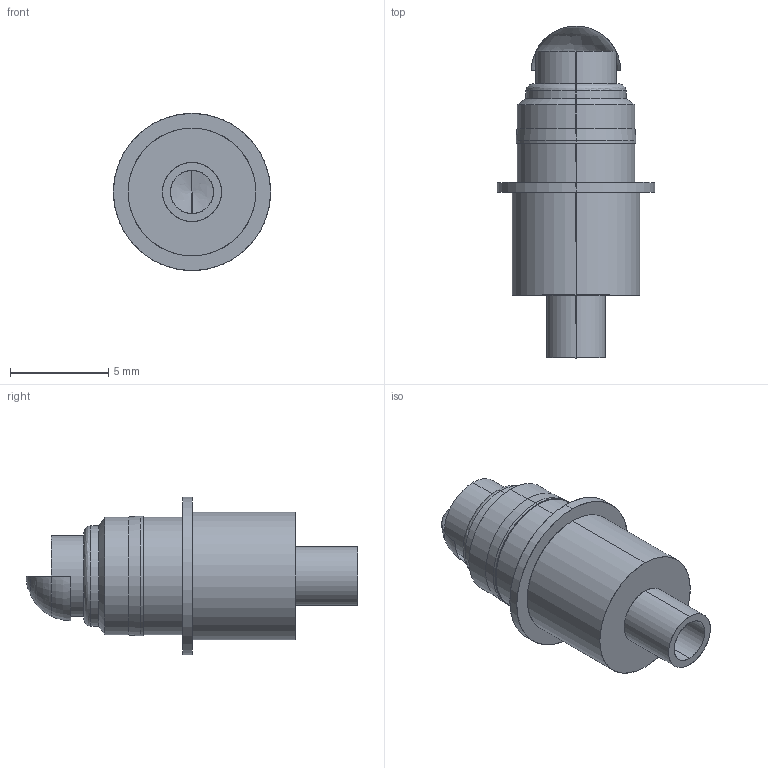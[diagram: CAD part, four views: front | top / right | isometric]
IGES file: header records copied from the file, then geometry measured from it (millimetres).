
Start section: SolidWorks IGES file using analytic representation for surfaces
Global section: file name: \\CODA-VM-SBS\RedirectedFolders\GeorgeD\My Documents\CODA CAD FILES\INTERFACING COMPONENTS\BACK FITMENT\PD16 SERIES\SD-PD16JXT-WET.IGS; native system: SolidWorks 2024; preprocessor: SolidWorks 2024; author: GeorgeD; date: 250910.140643; units: millimetre
Bounding box: 8 x 16.9 x 8 mm (x, y, z)
Surface area: 394.9 mm2 (no closed solid volume)
Topology: 0 solids, 0 shells, 41 faces, 468 edges, 465 vertices
Faces by surface type: revolution 28, bspline 13
